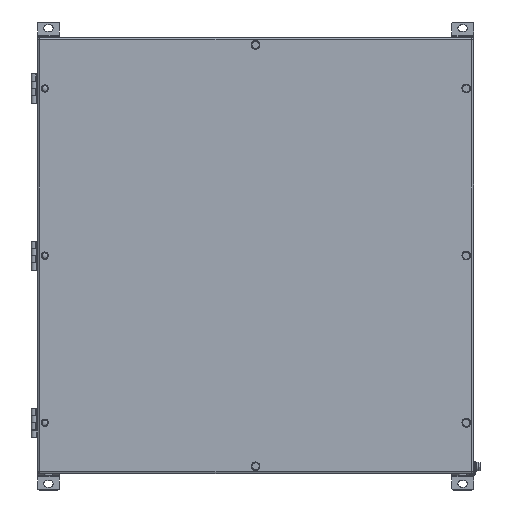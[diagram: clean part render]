
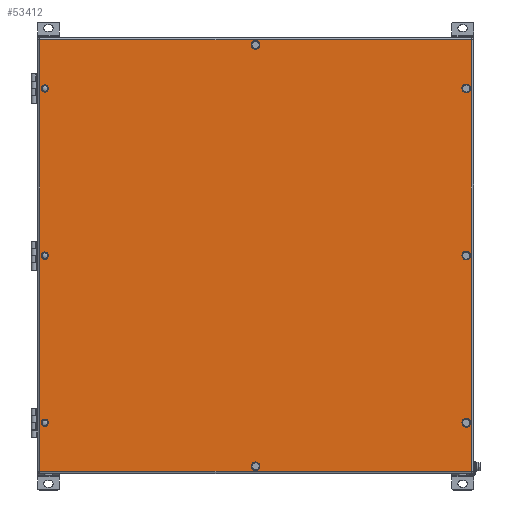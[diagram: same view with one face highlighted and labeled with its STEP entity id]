
A CAD part, top view. The second image highlights one B-rep face of the part: STEP entity #53412.
In plain terms, the highlighted planar face has unit normal (0, 0, 1).
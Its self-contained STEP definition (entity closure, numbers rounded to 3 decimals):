
#401 = DIRECTION ( 'NONE',  ( 0., -1., 0. ) ) ;
#1617 = CARTESIAN_POINT ( 'NONE',  ( 290., -230., 298.5 ) ) ;
#3880 = DIRECTION ( 'NONE',  ( -0.998, -0.068, 0. ) ) ;
#5047 = EDGE_CURVE ( 'NONE', #31061, #31061, #7265, .T. ) ;
#5349 = EDGE_LOOP ( 'NONE', ( #42603 ) ) ;
#6109 = EDGE_CURVE ( 'NONE', #16306, #16306, #31717, .T. ) ;
#6180 = ORIENTED_EDGE ( 'NONE', *, *, #50108, .F. ) ;
#6263 = AXIS2_PLACEMENT_3D ( 'NONE', #17832, #33455, #57803 ) ;
#6289 = CARTESIAN_POINT ( 'NONE',  ( 0., 0., 298.5 ) ) ;
#6427 = DIRECTION ( 'NONE',  ( 0., 0., 1. ) ) ;
#7106 = CARTESIAN_POINT ( 'NONE',  ( -5.986, 289.59, 298.5 ) ) ;
#7116 = CARTESIAN_POINT ( 'NONE',  ( 297., -297., 298.5 ) ) ;
#7265 = CIRCLE ( 'NONE', #6263, 6. ) ;
#7295 = EDGE_LOOP ( 'NONE', ( #16519 ) ) ;
#7509 = DIRECTION ( 'NONE',  ( -1., 0., 0. ) ) ;
#7991 = CARTESIAN_POINT ( 'NONE',  ( -297., -297., 298.5 ) ) ;
#8414 = CARTESIAN_POINT ( 'NONE',  ( -285., -230., 298.5 ) ) ;
#8528 = EDGE_LOOP ( 'NONE', ( #6180 ) ) ;
#8991 = FACE_BOUND ( 'NONE', #11170, .T. ) ;
#9221 = VERTEX_POINT ( 'NONE', #8414 ) ;
#9368 = ORIENTED_EDGE ( 'NONE', *, *, #6109, .F. ) ;
#9628 = VECTOR ( 'NONE', #7509, 1000. ) ;
#10379 = CARTESIAN_POINT ( 'NONE',  ( 290., 230., 298.5 ) ) ;
#11137 = CIRCLE ( 'NONE', #63099, 6. ) ;
#11170 = EDGE_LOOP ( 'NONE', ( #47354 ) ) ;
#11321 = ORIENTED_EDGE ( 'NONE', *, *, #21828, .F. ) ;
#11611 = VECTOR ( 'NONE', #401, 1000. ) ;
#11721 = DIRECTION ( 'NONE',  ( 1., 0., 0. ) ) ;
#11728 = CIRCLE ( 'NONE', #36491, 5. ) ;
#12685 = EDGE_LOOP ( 'NONE', ( #27738, #55169, #38162, #62886 ) ) ;
#14313 = EDGE_CURVE ( 'NONE', #21627, #21627, #48036, .T. ) ;
#14544 = CIRCLE ( 'NONE', #58684, 6. ) ;
#14655 = DIRECTION ( 'NONE',  ( 0., 1., 0. ) ) ;
#15768 = CARTESIAN_POINT ( 'NONE',  ( 296., 230., 298.5 ) ) ;
#16306 = VERTEX_POINT ( 'NONE', #24093 ) ;
#16519 = ORIENTED_EDGE ( 'NONE', *, *, #14313, .F. ) ;
#16571 = DIRECTION ( 'NONE',  ( 0., 0., 1. ) ) ;
#16615 = LINE ( 'NONE', #17286, #9628 ) ;
#17013 = DIRECTION ( 'NONE',  ( -0.983, -0.184, 0. ) ) ;
#17286 = CARTESIAN_POINT ( 'NONE',  ( -300., 297., 298.5 ) ) ;
#17498 = EDGE_LOOP ( 'NONE', ( #9368 ) ) ;
#17832 = CARTESIAN_POINT ( 'NONE',  ( 290., 0., 298.5 ) ) ;
#17983 = DIRECTION ( 'NONE',  ( 0., 0., 1. ) ) ;
#18824 = VERTEX_POINT ( 'NONE', #46818 ) ;
#19099 = CARTESIAN_POINT ( 'NONE',  ( -290., -230., 298.5 ) ) ;
#19852 = CARTESIAN_POINT ( 'NONE',  ( 297., 300., 298.5 ) ) ;
#20119 = CARTESIAN_POINT ( 'NONE',  ( -297., -300., 298.5 ) ) ;
#20236 = DIRECTION ( 'NONE',  ( 0., 0., 1. ) ) ;
#20355 = DIRECTION ( 'NONE',  ( 0., 0., 1. ) ) ;
#20958 = LINE ( 'NONE', #20119, #11611 ) ;
#21627 = VERTEX_POINT ( 'NONE', #60808 ) ;
#21824 = CARTESIAN_POINT ( 'NONE',  ( 0., -290., 298.5 ) ) ;
#21828 = EDGE_CURVE ( 'NONE', #28539, #28539, #11137, .T. ) ;
#22928 = FACE_BOUND ( 'NONE', #47837, .T. ) ;
#23683 = EDGE_CURVE ( 'NONE', #24331, #45320, #20958, .T. ) ;
#23739 = FACE_BOUND ( 'NONE', #61293, .T. ) ;
#24093 = CARTESIAN_POINT ( 'NONE',  ( -285., 230., 298.5 ) ) ;
#24331 = VERTEX_POINT ( 'NONE', #35667 ) ;
#24484 = FACE_BOUND ( 'NONE', #46093, .T. ) ;
#26011 = FACE_BOUND ( 'NONE', #8528, .T. ) ;
#27738 = ORIENTED_EDGE ( 'NONE', *, *, #23683, .T. ) ;
#28351 = AXIS2_PLACEMENT_3D ( 'NONE', #6289, #61503, #11721 ) ;
#28431 = CARTESIAN_POINT ( 'NONE',  ( -290., 230., 298.5 ) ) ;
#28539 = VERTEX_POINT ( 'NONE', #7106 ) ;
#30154 = EDGE_CURVE ( 'NONE', #9221, #9221, #11728, .T. ) ;
#30926 = AXIS2_PLACEMENT_3D ( 'NONE', #28431, #43934, #38495 ) ;
#31061 = VERTEX_POINT ( 'NONE', #64087 ) ;
#31717 = CIRCLE ( 'NONE', #30926, 5. ) ;
#33455 = DIRECTION ( 'NONE',  ( 0., 0., 1. ) ) ;
#34459 = LINE ( 'NONE', #19852, #40657 ) ;
#34648 = FACE_BOUND ( 'NONE', #17498, .T. ) ;
#34676 = EDGE_CURVE ( 'NONE', #62038, #62038, #38379, .T. ) ;
#35667 = CARTESIAN_POINT ( 'NONE',  ( -297., 297., 298.5 ) ) ;
#36491 = AXIS2_PLACEMENT_3D ( 'NONE', #19099, #39518, #43660 ) ;
#37181 = EDGE_CURVE ( 'NONE', #18824, #24331, #16615, .T. ) ;
#37449 = EDGE_CURVE ( 'NONE', #45325, #18824, #34459, .T. ) ;
#37776 = FACE_OUTER_BOUND ( 'NONE', #12685, .T. ) ;
#38162 = ORIENTED_EDGE ( 'NONE', *, *, #37449, .T. ) ;
#38379 = CIRCLE ( 'NONE', #46319, 6. ) ;
#38495 = DIRECTION ( 'NONE',  ( 1., 0., 0. ) ) ;
#39469 = VERTEX_POINT ( 'NONE', #15768 ) ;
#39518 = DIRECTION ( 'NONE',  ( 0., 0., 1. ) ) ;
#40657 = VECTOR ( 'NONE', #14655, 1000. ) ;
#40860 = ORIENTED_EDGE ( 'NONE', *, *, #42875, .F. ) ;
#42603 = ORIENTED_EDGE ( 'NONE', *, *, #30154, .F. ) ;
#42730 = DIRECTION ( 'NONE',  ( 1., 0., 0. ) ) ;
#42875 = EDGE_CURVE ( 'NONE', #39469, #39469, #14544, .T. ) ;
#43399 = CARTESIAN_POINT ( 'NONE',  ( 300., -297., 298.5 ) ) ;
#43624 = CARTESIAN_POINT ( 'NONE',  ( 0., 290., 298.5 ) ) ;
#43660 = DIRECTION ( 'NONE',  ( 1., 0., 0. ) ) ;
#43934 = DIRECTION ( 'NONE',  ( 0., 0., 1. ) ) ;
#45320 = VERTEX_POINT ( 'NONE', #7991 ) ;
#45325 = VERTEX_POINT ( 'NONE', #7116 ) ;
#46093 = EDGE_LOOP ( 'NONE', ( #11321 ) ) ;
#46319 = AXIS2_PLACEMENT_3D ( 'NONE', #1617, #16571, #17013 ) ;
#46818 = CARTESIAN_POINT ( 'NONE',  ( 297., 297., 298.5 ) ) ;
#46914 = DIRECTION ( 'NONE',  ( 1., 0., 0. ) ) ;
#47354 = ORIENTED_EDGE ( 'NONE', *, *, #34676, .F. ) ;
#47837 = EDGE_LOOP ( 'NONE', ( #40860 ) ) ;
#48036 = CIRCLE ( 'NONE', #55970, 6. ) ;
#48388 = ORIENTED_EDGE ( 'NONE', *, *, #5047, .F. ) ;
#48701 = FACE_BOUND ( 'NONE', #5349, .T. ) ;
#49934 = CARTESIAN_POINT ( 'NONE',  ( 284.103, -231.104, 298.5 ) ) ;
#50090 = CARTESIAN_POINT ( 'NONE',  ( -290., 0., 298.5 ) ) ;
#50108 = EDGE_CURVE ( 'NONE', #62703, #62703, #58204, .T. ) ;
#52734 = LINE ( 'NONE', #43399, #56542 ) ;
#53412 = ADVANCED_FACE ( 'NONE', ( #22928, #61062, #34648, #23739, #37776, #26011, #24484, #8991, #48701 ), #55650, .T. ) ;
#53572 = CARTESIAN_POINT ( 'NONE',  ( -285., 0., 298.5 ) ) ;
#53651 = AXIS2_PLACEMENT_3D ( 'NONE', #50090, #20236, #55028 ) ;
#55028 = DIRECTION ( 'NONE',  ( 1., 0., 0. ) ) ;
#55093 = EDGE_CURVE ( 'NONE', #45320, #45325, #52734, .T. ) ;
#55146 = DIRECTION ( 'NONE',  ( 1., 0., 0. ) ) ;
#55169 = ORIENTED_EDGE ( 'NONE', *, *, #55093, .T. ) ;
#55650 = PLANE ( 'NONE',  #28351 ) ;
#55970 = AXIS2_PLACEMENT_3D ( 'NONE', #21824, #6427, #46914 ) ;
#56542 = VECTOR ( 'NONE', #42730, 1000. ) ;
#57803 = DIRECTION ( 'NONE',  ( 0.975, 0.224, 0. ) ) ;
#58204 = CIRCLE ( 'NONE', #53651, 5. ) ;
#58684 = AXIS2_PLACEMENT_3D ( 'NONE', #10379, #20355, #55146 ) ;
#60808 = CARTESIAN_POINT ( 'NONE',  ( 6., -290., 298.5 ) ) ;
#61062 = FACE_BOUND ( 'NONE', #7295, .T. ) ;
#61293 = EDGE_LOOP ( 'NONE', ( #48388 ) ) ;
#61503 = DIRECTION ( 'NONE',  ( 0., 0., 1. ) ) ;
#62038 = VERTEX_POINT ( 'NONE', #49934 ) ;
#62703 = VERTEX_POINT ( 'NONE', #53572 ) ;
#62886 = ORIENTED_EDGE ( 'NONE', *, *, #37181, .T. ) ;
#63099 = AXIS2_PLACEMENT_3D ( 'NONE', #43624, #17983, #3880 ) ;
#64087 = CARTESIAN_POINT ( 'NONE',  ( 295.848, 1.344, 298.5 ) ) ;
